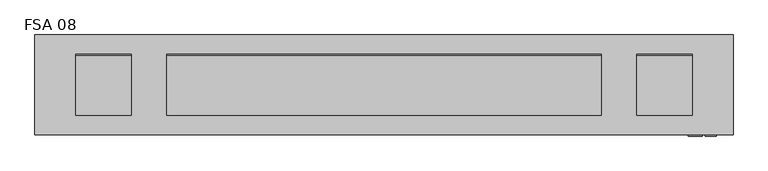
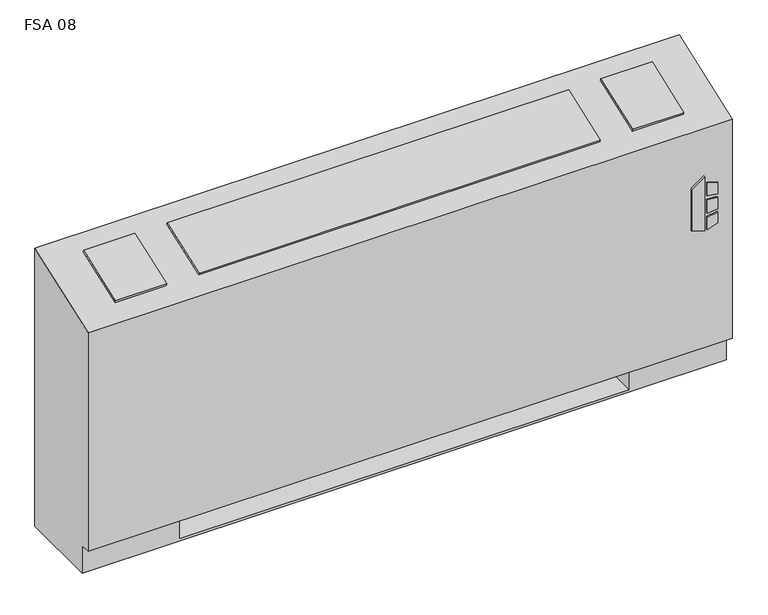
"""IFC4 building model written with IfcOpenShell, lengths in millimetres: proxy geometry, Vertical_Fan_Coil_Unit_-_FSA_-_IEC_-_2-Pipe_TS-FR_RH_2022 : FSA 08."""

from ifc_helpers import new_model, si_unit, point, frame, frame_2d, origin, place, context, project, spatial, polyline, circle_curve, trimmed, segment, composite_curve, outline, extrude, source, transform, mapped, element, save
from ifc_brep_helpers import plane_surface, revolved_surface, advanced_brep


def fsa_08_b623f187(model_context):
    return source(origin(), model_context, "Body", "SolidModel", [
        extrude(outline(polyline([(391.6086829, 849.3868862), (381.6606126, 881.5602728), (523.831537, 881.5602728), (500.8095309, 849.3868862), (391.6086829, 849.3868862)])), frame((0.0, 12.7, 0.0), z_axis=(0.0, 1.0, 0.0), x_axis=(0.0, 0.0, 1.0)), (0.0, 0.0, 1.0), 3.175),
        extrude(outline(polyline([(470.6079683, 888.3186058), (467.4055757, 914.4), (496.6344168, 914.4), (504.6988318, 888.3186058), (470.6079683, 888.3186058)])), frame((0.0, 12.7, 0.0), z_axis=(0.0, 1.0, 0.0), x_axis=(0.0, 0.0, 1.0)), (0.0, 0.0, 1.0), 3.175),
        extrude(outline(polyline([(418.7444414, 914.4), (415.0789404, 888.3186058), (381.6606126, 888.3186058), (390.2948498, 914.4), (418.7444414, 914.4)])), frame((0.0, 12.7, 0.0), z_axis=(0.0, 1.0, 0.0), x_axis=(0.0, 0.0, 1.0)), (0.0, 0.0, 1.0), 3.175),
        extrude(outline(polyline([(458.0596028, 914.4), (460.3414292, 888.3186058), (424.4038806, 888.3186058), (427.1451456, 914.4), (458.0596028, 914.4)])), frame((0.0, 12.7, 0.0), z_axis=(0.0, 1.0, 0.0), x_axis=(0.0, 0.0, 1.0)), (0.0, 0.0, 1.0), 3.175),
        extrude(outline(polyline([(-527.05, 81.534), (-527.05, 223.266), (-406.4, 223.266), (-406.4, 81.534), (-527.05, 81.534)])), frame((0.0, 0.0, 327.025), z_axis=(0.0, 0.0, 1.0), x_axis=(1.0, 0.0, 0.0)), (0.0, 0.0, 1.0), 260.35),
        extrude(outline(composite_curve([segment(trimmed(circle_curve(frame_2d((774.7, 130.175)), 9.525), [point((765.175, 130.175))], [point((784.225, 130.175))], False, "CARTESIAN"), True, "CONTINUOUS"), segment(trimmed(circle_curve(frame_2d((774.7, 130.175)), 9.525), [point((784.225, 130.175))], [point((765.175, 130.175))], False, "CARTESIAN"), True, "CONTINUOUS")], self_intersect=False)), frame((0.0, 0.0, 101.6), z_axis=(0.0, 0.0, 1.0), x_axis=(1.0, 0.0, 0.0)), (0.0, 0.0, 1.0), 25.4),
        extrude(outline(polyline([(876.3, 196.85), (876.3, 63.5), (711.2, 63.5), (711.2, 196.85), (876.3, 196.85)])), frame((0.0, 0.0, 127.0), z_axis=(0.0, 0.0, 1.0), x_axis=(1.0, 0.0, 0.0)), (0.0, 0.0, 1.0), 50.8),
        extrude(outline(polyline([(0.0, -146.0500001), (0.0, 0.0), (127.0, 0.0), (127.0, -146.0500001), (0.0, -146.0500001)])), frame((-553.593, 200.4217127, 714.3418685), z_axis=(0.0, -0.3396444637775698, 0.9405538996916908), x_axis=(1.0, 0.0, 0.0)), (0.0, 0.0, 1.0), 6.35),
        extrude(outline(polyline([(0.0, -146.0500001), (0.0, 0.0), (996.95, 0.0), (996.95, -146.0500001), (0.0, -146.0500001)])), frame((650.875, 63.0538156, 664.7367945), z_axis=(0.0, -0.33964446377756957, 0.9405538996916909), x_axis=(-1.0, 0.0, 0.0)), (0.0, 0.0, 1.0), 6.35),
        extrude(outline(polyline([(0.0, -146.0500001), (0.0, 0.0), (127.0, 0.0), (127.0, -146.0500001), (0.0, -146.0500001)])), frame((858.393, 63.0538156, 664.7367945), z_axis=(0.0, -0.3396444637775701, 0.9405538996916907), x_axis=(-1.0, 0.0, 0.0)), (0.0, 0.0, 1.0), 6.35),
        extrude(outline(composite_curve([segment(trimmed(circle_curve(frame_2d((109.347, 456.819)), 7.9375), [point((109.347, 464.7565))], [point((109.347, 448.8815))], False, "CARTESIAN"), True, "CONTINUOUS"), segment(trimmed(circle_curve(frame_2d((109.347, 456.819)), 7.9375), [point((109.347, 448.8815))], [point((109.347, 464.7565))], False, "CARTESIAN"), True, "CONTINUOUS")], self_intersect=False)), frame((711.2, 0.0, 0.0), z_axis=(1.0, 0.0, 0.0), x_axis=(0.0, 1.0, 0.0)), (0.0, 0.0, 1.0), 50.8),
        extrude(outline(composite_curve([segment(trimmed(circle_curve(frame_2d((157.4546, 429.4632)), 7.9375), [point((157.4546, 437.4007))], [point((157.4546, 421.5257))], False, "CARTESIAN"), True, "CONTINUOUS"), segment(trimmed(circle_curve(frame_2d((157.4546, 429.4632)), 7.9375), [point((157.4546, 421.5257))], [point((157.4546, 437.4007))], False, "CARTESIAN"), True, "CONTINUOUS")], self_intersect=False)), frame((711.2, 0.0, 0.0), z_axis=(1.0, 0.0, 0.0), x_axis=(0.0, 1.0, 0.0)), (0.0, 0.0, 1.0), 50.8),
        advanced_brep(
        [(-647.7, 244.475, 0.0), (952.5, 244.475, 0.0), (952.5, 41.275, 0.0), (-647.7, 41.275, 0.0), (-647.7, 244.475, 730.25), (952.5, 244.475, 730.25), (711.2, 244.475, 73.025), (939.8, 244.475, 73.025), (939.8, 244.475, 654.05), (711.2, 244.475, 654.05), (711.2, 244.475, 414.8650565), (739.775, 244.475, 414.8650565), (739.775, 244.475, 385.2349435), (711.2, 244.475, 385.2349435), (711.2, 244.475, 287.3375), (739.775, 244.475, 287.3375), (739.775, 244.475, 258.7625), (711.2, 244.475, 258.7625), (711.2, 244.475, 141.2875), (739.775, 244.475, 141.2875), (739.775, 244.475, 112.7125), (711.2, 244.475, 112.7125), (-406.4, 244.475, 654.05), (-635.0, 244.475, 654.05), (-635.0, 244.475, 73.025), (-406.4, 244.475, 73.025), (-406.4, 244.475, 112.7125), (-434.975, 244.475, 112.7125), (-434.975, 244.475, 141.2875), (-406.4, 244.475, 141.2875), (-406.4, 244.475, 258.7625), (-434.975, 244.475, 258.7625), (-434.975, 244.475, 287.3375), (-406.4, 244.475, 287.3375), (-406.4, 244.475, 385.2349435), (-434.975, 244.475, 385.2349435), (-434.975, 244.475, 414.8650565), (-406.4, 244.475, 414.8650565), (729.4626, 244.475, 127.0), (718.3374, 244.475, 127.0), (729.4626, 244.475, 400.05), (718.3374, 244.475, 400.05), (729.4626, 244.475, 273.05), (718.3374, 244.475, 273.05), (-413.5374, 244.475, 127.0), (-424.6626, 244.475, 127.0), (-413.5374, 244.475, 273.05), (-424.6626, 244.475, 273.05), (-413.5374, 244.475, 400.05), (-424.6626, 244.475, 400.05), (-647.7, 41.275, 73.025), (-647.7, 15.875, 73.025), (-647.7, 15.875, 647.7), (952.5, 15.875, 73.025), (952.5, 15.875, 647.7), (952.5, 41.275, 73.025), (-406.4, 41.275, 73.025), (-406.4, 225.425, 73.025), (711.2, 225.425, 73.025), (711.2, 41.275, 73.025), (711.2, 41.275, 6.35), (-406.4, 41.275, 6.35), (711.2, 41.275, 654.05), (939.8, 41.275, 654.05), (939.8, 41.275, 73.025), (711.2, 41.275, 73.025), (-406.4, 41.275, 654.05), (-406.4, 41.275, 73.025), (-635.0, 41.275, 73.025), (-635.0, 41.275, 654.05), (711.2, 225.425, 73.025), (711.2, 238.125, 112.7125), (711.2, 238.125, 141.2875), (711.2, 238.125, 258.7625), (711.2, 238.125, 287.3375), (711.2, 238.125, 385.2349435), (711.2, 238.125, 414.8650565), (-406.4, 225.425, 73.025), (-406.4, 238.125, 414.8650565), (-406.4, 238.125, 385.2349435), (-406.4, 238.125, 287.3375), (-406.4, 238.125, 258.7625), (-406.4, 238.125, 141.2875), (-406.4, 238.125, 112.7125), (-406.4, 225.425, 6.35), (711.2, 225.425, 6.35), (739.775, 238.125, 112.7125), (739.775, 238.125, 141.2875), (718.3374, 238.125, 127.0), (729.4626, 238.125, 127.0), (739.775, 238.125, 258.7625), (739.775, 238.125, 287.3375), (718.3374, 238.125, 273.05), (729.4626, 238.125, 273.05), (739.775, 238.125, 385.2349435), (739.775, 238.125, 414.8650565), (718.3374, 238.125, 400.05), (729.4626, 238.125, 400.05), (-434.975, 238.125, 141.2875), (-434.975, 238.125, 112.7125), (-424.6626, 238.125, 127.0), (-413.5374, 238.125, 127.0), (-434.975, 238.125, 287.3375), (-434.975, 238.125, 258.7625), (-424.6626, 238.125, 273.05), (-413.5374, 238.125, 273.05), (-434.975, 238.125, 414.8650565), (-434.975, 238.125, 385.2349435), (-424.6626, 238.125, 400.05), (-413.5374, 238.125, 400.05)],
        [
            (0, 1),
            (1, 2),
            (2, 3),
            (3, 0),
            (0, 4),
            (4, 5),
            (5, 1),
            (6, 7),
            (7, 8),
            (8, 9),
            (9, 10),
            (10, 11),
            (11, 12),
            (12, 13),
            (13, 14),
            (14, 15),
            (15, 16),
            (16, 17),
            (17, 18),
            (18, 19),
            (19, 20),
            (20, 21),
            (21, 6),
            (22, 23),
            (23, 24),
            (24, 25),
            (25, 26),
            (26, 27),
            (27, 28),
            (28, 29),
            (29, 30),
            (30, 31),
            (31, 32),
            (32, 33),
            (33, 34),
            (34, 35),
            (35, 36),
            (36, 37),
            (37, 22),
            (38, 39, circle_curve(frame((723.9, 244.475, 127.0), z_axis=(0.0, -1.0, 0.0), x_axis=(-1.0, 0.0, 0.0)), 5.5626)),
            (39, 38, circle_curve(frame((723.9, 244.475, 127.0), z_axis=(0.0, -1.0, 0.0), x_axis=(-1.0, 0.0, 0.0)), 5.5626)),
            (40, 41, circle_curve(frame((723.9, 244.475, 400.05), z_axis=(0.0, -1.0, 0.0), x_axis=(-1.0, 0.0, 0.0)), 5.5626)),
            (41, 40, circle_curve(frame((723.9, 244.475, 400.05), z_axis=(0.0, -1.0, 0.0), x_axis=(-1.0, 0.0, 0.0)), 5.5626)),
            (42, 43, circle_curve(frame((723.9, 244.475, 273.05), z_axis=(0.0, -1.0, 0.0), x_axis=(-1.0, 0.0, 0.0)), 5.5626)),
            (43, 42, circle_curve(frame((723.9, 244.475, 273.05), z_axis=(0.0, -1.0, 0.0), x_axis=(-1.0, 0.0, 0.0)), 5.5626)),
            (44, 45, circle_curve(frame((-419.1, 244.475, 127.0), z_axis=(0.0, -1.0, 0.0), x_axis=(-1.0, 0.0, 0.0)), 5.5626)),
            (45, 44, circle_curve(frame((-419.1, 244.475, 127.0), z_axis=(0.0, -1.0, 0.0), x_axis=(-1.0, 0.0, 0.0)), 5.5626)),
            (46, 47, circle_curve(frame((-419.1, 244.475, 273.05), z_axis=(0.0, -1.0, 0.0), x_axis=(-1.0, 0.0, 0.0)), 5.5626)),
            (47, 46, circle_curve(frame((-419.1, 244.475, 273.05), z_axis=(0.0, -1.0, 0.0), x_axis=(-1.0, 0.0, 0.0)), 5.5626)),
            (48, 49, circle_curve(frame((-419.1, 244.475, 400.05), z_axis=(0.0, -1.0, 0.0), x_axis=(-1.0, 0.0, 0.0)), 5.5626)),
            (49, 48, circle_curve(frame((-419.1, 244.475, 400.05), z_axis=(0.0, -1.0, 0.0), x_axis=(-1.0, 0.0, 0.0)), 5.5626)),
            (3, 50),
            (50, 51),
            (51, 52),
            (52, 4),
            (51, 53),
            (53, 54),
            (54, 52),
            (5, 54),
            (53, 55),
            (55, 2),
            (50, 56),
            (56, 57),
            (57, 58),
            (58, 59),
            (59, 55),
            (59, 60),
            (60, 61),
            (61, 56),
            (62, 63),
            (63, 64),
            (64, 65),
            (65, 62),
            (66, 67),
            (67, 68),
            (68, 69),
            (69, 66),
            (65, 70),
            (70, 6),
            (21, 71),
            (71, 72),
            (72, 18),
            (17, 73),
            (73, 74),
            (74, 14),
            (13, 75),
            (75, 76),
            (76, 10),
            (9, 62),
            (64, 7),
            (63, 8),
            (69, 23),
            (22, 66),
            (68, 24),
            (67, 77),
            (77, 25),
            (37, 78),
            (78, 79),
            (79, 34),
            (33, 80),
            (80, 81),
            (81, 30),
            (29, 82),
            (82, 83),
            (83, 26),
            (57, 84),
            (84, 85),
            (85, 58),
            (85, 60),
            (84, 61),
            (71, 86),
            (86, 87),
            (87, 72),
            (88, 89, circle_curve(frame((723.9, 238.125, 127.0), z_axis=(0.0, 1.0, 0.0), x_axis=(-1.0, 0.0, 0.0)), 5.5626)),
            (89, 88, circle_curve(frame((723.9, 238.125, 127.0), z_axis=(0.0, 1.0, 0.0), x_axis=(-1.0, 0.0, 0.0)), 5.5626)),
            (73, 90),
            (90, 91),
            (91, 74),
            (92, 93, circle_curve(frame((723.9, 238.125, 273.05), z_axis=(0.0, 1.0, 0.0), x_axis=(-1.0, 0.0, 0.0)), 5.5626)),
            (93, 92, circle_curve(frame((723.9, 238.125, 273.05), z_axis=(0.0, 1.0, 0.0), x_axis=(-1.0, 0.0, 0.0)), 5.5626)),
            (75, 94),
            (94, 95),
            (95, 76),
            (96, 97, circle_curve(frame((723.9, 238.125, 400.05), z_axis=(0.0, 1.0, 0.0), x_axis=(-1.0, 0.0, 0.0)), 5.5626)),
            (97, 96, circle_curve(frame((723.9, 238.125, 400.05), z_axis=(0.0, 1.0, 0.0), x_axis=(-1.0, 0.0, 0.0)), 5.5626)),
            (98, 99),
            (99, 83),
            (82, 98),
            (100, 101, circle_curve(frame((-419.1, 238.125, 127.0), z_axis=(0.0, 1.0, 0.0), x_axis=(-1.0, 0.0, 0.0)), 5.5626)),
            (101, 100, circle_curve(frame((-419.1, 238.125, 127.0), z_axis=(0.0, 1.0, 0.0), x_axis=(-1.0, 0.0, 0.0)), 5.5626)),
            (102, 103),
            (103, 81),
            (80, 102),
            (104, 105, circle_curve(frame((-419.1, 238.125, 273.05), z_axis=(0.0, 1.0, 0.0), x_axis=(-1.0, 0.0, 0.0)), 5.5626)),
            (105, 104, circle_curve(frame((-419.1, 238.125, 273.05), z_axis=(0.0, 1.0, 0.0), x_axis=(-1.0, 0.0, 0.0)), 5.5626)),
            (106, 107),
            (107, 79),
            (78, 106),
            (108, 109, circle_curve(frame((-419.1, 238.125, 400.05), z_axis=(0.0, 1.0, 0.0), x_axis=(-1.0, 0.0, 0.0)), 5.5626)),
            (109, 108, circle_curve(frame((-419.1, 238.125, 400.05), z_axis=(0.0, 1.0, 0.0), x_axis=(-1.0, 0.0, 0.0)), 5.5626)),
            (87, 19),
            (86, 20),
            (91, 15),
            (90, 16),
            (95, 11),
            (94, 12),
            (28, 98),
            (99, 27),
            (32, 102),
            (103, 31),
            (36, 106),
            (107, 35),
            (88, 39),
            (38, 89),
            (96, 41),
            (40, 97),
            (92, 43),
            (42, 93),
            (100, 45),
            (44, 101),
            (104, 47),
            (46, 105),
            (108, 49),
            (48, 109),
        ],
        [
            plane_surface(frame((-647.7, 244.475, 0.0), z_axis=(0.0, 0.0, -1.0), x_axis=(1.0, 0.0, 0.0))),
            plane_surface(frame((952.5, 244.475, 730.25), z_axis=(0.0, 1.0, 0.0), x_axis=(0.0, 0.0, -1.0))),
            plane_surface(frame((-647.7, 244.475, 730.25), z_axis=(-1.0, 0.0, 0.0), x_axis=(0.0, 0.0, -1.0))),
            plane_surface(frame((-647.7, 15.875, 730.25), z_axis=(0.0, -1.0, 0.0), x_axis=(0.0, 0.0, -1.0))),
            plane_surface(frame((952.5, 15.875, 730.25), z_axis=(1.0, 0.0, 0.0), x_axis=(0.0, 0.0, -1.0))),
            plane_surface(frame((-647.7, 15.875, 73.025), z_axis=(0.0, 0.0, -1.0), x_axis=(1.0, 0.0, 0.0))),
            plane_surface(frame((-647.7, 41.275, 73.025), z_axis=(0.0, -1.0, 0.0), x_axis=(1.0, 0.0, 0.0))),
            plane_surface(frame((711.2, 41.275, 654.05), z_axis=(0.0, 1.0, 0.0), x_axis=(0.0, 0.0, -1.0))),
            plane_surface(frame((711.2, 41.275, 654.05), z_axis=(1.0, 0.0, 0.0), x_axis=(0.0, 1.0, 0.0))),
            plane_surface(frame((711.2, 41.275, 73.025), z_axis=(0.0, 0.0, 1.0), x_axis=(0.0, 1.0, 0.0))),
            plane_surface(frame((939.8, 41.275, 73.025), z_axis=(-1.0, 0.0, 0.0), x_axis=(0.0, 1.0, 0.0))),
            plane_surface(frame((939.8, 41.275, 654.05), z_axis=(0.0, 0.0, -1.0), x_axis=(0.0, 1.0, 0.0))),
            plane_surface(frame((-406.4, 41.275, 654.05), z_axis=(0.0, 0.0, -1.0), x_axis=(0.0, 1.0, 0.0))),
            plane_surface(frame((-635.0, 41.275, 654.05), z_axis=(1.0, 0.0, 0.0), x_axis=(0.0, 1.0, 0.0))),
            plane_surface(frame((-635.0, 41.275, 73.025), z_axis=(0.0, 0.0, 1.0), x_axis=(0.0, 1.0, 0.0))),
            plane_surface(frame((-406.4, 41.275, 73.025), z_axis=(-1.0, 0.0, 0.0), x_axis=(0.0, 1.0, 0.0))),
            plane_surface(frame((711.2, 225.425, 73.025), z_axis=(0.0, -1.0, 0.0), x_axis=(0.0, 0.0, -1.0))),
            plane_surface(frame((711.2, 225.425, 73.025), z_axis=(-1.0, 0.0, 0.0), x_axis=(0.0, -1.0, 0.0))),
            plane_surface(frame((711.2, 225.425, 6.35), z_axis=(0.0, 0.0, 1.0), x_axis=(0.0, -1.0, 0.0))),
            plane_surface(frame((-406.4, 225.425, 6.35), z_axis=(1.0, 0.0, 0.0), x_axis=(0.0, -1.0, 0.0))),
            plane_surface(frame((739.775, 238.125, 141.2875), z_axis=(0.0, -1.0, 0.0), x_axis=(-1.0, 0.0, 0.0))),
            plane_surface(frame((711.2, 244.475, 141.2875), z_axis=(0.0, 0.0, 1.0), x_axis=(0.0, -1.0, 0.0))),
            plane_surface(frame((739.775, 244.475, 141.2875), z_axis=(1.0, 0.0, 0.0), x_axis=(0.0, -1.0, 0.0))),
            plane_surface(frame((739.775, 244.475, 112.7125), z_axis=(0.0, 0.0, -1.0), x_axis=(0.0, -1.0, 0.0))),
            plane_surface(frame((711.2, 244.475, 287.3375), z_axis=(0.0, 0.0, 1.0), x_axis=(0.0, -1.0, 0.0))),
            plane_surface(frame((739.775, 244.475, 287.3375), z_axis=(1.0, 0.0, 0.0), x_axis=(0.0, -1.0, 0.0))),
            plane_surface(frame((739.775, 244.475, 258.7625), z_axis=(0.0, 0.0, -1.0), x_axis=(0.0, -1.0, 0.0))),
            plane_surface(frame((711.2, 244.475, 414.8650565), z_axis=(0.0, 0.0, 1.0), x_axis=(0.0, -1.0, 0.0))),
            plane_surface(frame((739.775, 244.475, 414.8650565), z_axis=(1.0, 0.0, 0.0), x_axis=(0.0, -1.0, 0.0))),
            plane_surface(frame((739.775, 244.475, 385.2349435), z_axis=(0.0, 0.0, -1.0), x_axis=(0.0, -1.0, 0.0))),
            plane_surface(frame((-434.975, 244.475, 141.2875), z_axis=(0.0, 0.0, 1.0), x_axis=(0.0, -1.0, 0.0))),
            plane_surface(frame((-406.4, 244.475, 112.7125), z_axis=(0.0, 0.0, -1.0), x_axis=(0.0, -1.0, 0.0))),
            plane_surface(frame((-434.975, 244.475, 112.7125), z_axis=(-1.0, 0.0, 0.0), x_axis=(0.0, -1.0, 0.0))),
            plane_surface(frame((-434.975, 244.475, 287.3375), z_axis=(0.0, 0.0, 1.0), x_axis=(0.0, -1.0, 0.0))),
            plane_surface(frame((-406.4, 244.475, 258.7625), z_axis=(0.0, 0.0, -1.0), x_axis=(0.0, -1.0, 0.0))),
            plane_surface(frame((-434.975, 244.475, 258.7625), z_axis=(-1.0, 0.0, 0.0), x_axis=(0.0, -1.0, 0.0))),
            plane_surface(frame((-434.975, 244.475, 414.8650565), z_axis=(0.0, 0.0, 1.0), x_axis=(0.0, -1.0, 0.0))),
            plane_surface(frame((-406.4, 244.475, 385.2349435), z_axis=(0.0, 0.0, -1.0), x_axis=(0.0, -1.0, 0.0))),
            plane_surface(frame((-434.975, 244.475, 385.2349435), z_axis=(-1.0, 0.0, 0.0), x_axis=(0.0, -1.0, 0.0))),
            revolved_surface(polyline([(718.3374, 238.125, 127.0), (718.3374, 244.475, 127.0)]), (723.9, 244.475, 127.0), (0.0, -1.0, 0.0)),
            revolved_surface(polyline([(718.3374, 238.125, 400.05), (718.3374, 244.475, 400.05)]), (723.9, 244.475, 400.05), (0.0, -1.0, 0.0)),
            revolved_surface(polyline([(718.3374, 238.125, 273.05), (718.3374, 244.475, 273.05)]), (723.9, 244.475, 273.05), (0.0, -1.0, 0.0)),
            revolved_surface(polyline([(-424.6626, 238.125, 127.0), (-424.6626, 244.475, 127.0)]), (-419.1, 244.475, 127.0), (0.0, -1.0, 0.0)),
            revolved_surface(polyline([(-424.6626, 238.125, 273.05), (-424.6626, 244.475, 273.05)]), (-419.1, 244.475, 273.05), (0.0, -1.0, 0.0)),
            revolved_surface(polyline([(-424.6626, 238.125, 400.05), (-424.6626, 244.475, 400.05)]), (-419.1, 244.475, 400.05), (0.0, -1.0, 0.0)),
            plane_surface(frame((-647.7, 244.475, 730.25), z_axis=(0.0, -0.33964446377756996, 0.9405538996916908), x_axis=(1.0, 0.0, 0.0))),
        ],
        [
            (0, [[1, 2, 3, 4]]),
            (1, [[-1, 5, 6, 7], [8, 9, 10, 11, 12, 13, 14, 15, 16, 17, 18, 19, 20, 21, 22, 23], [24, 25, 26, 27, 28, 29, 30, 31, 32, 33, 34, 35, 36, 37, 38, 39], [40, 41], [42, 43], [44, 45], [46, 47], [48, 49], [50, 51]]),
            (2, [[-5, -4, 52, 53, 54, 55]]),
            (3, [[56, 57, 58, -54]]),
            (4, [[-7, 59, -57, 60, 61, -2]]),
            (5, [[-53, 62, 63, 64, 65, 66, -60, -56]]),
            (6, [[-3, -61, -66, 67, 68, 69, -62, -52]]),
            (7, [[70, 71, 72, 73]]),
            (7, [[74, 75, 76, 77]]),
            (8, [[-73, 78, 79, -23, 80, 81, 82, -19, 83, 84, 85, -15, 86, 87, 88, -11, 89]]),
            (9, [[-72, 90, -8, -79, -78]]),
            (10, [[-71, 91, -9, -90]]),
            (11, [[-70, -89, -10, -91]]),
            (12, [[-77, 92, -24, 93]]),
            (13, [[-76, 94, -25, -92]]),
            (14, [[-75, 95, 96, -26, -94]]),
            (15, [[-74, -93, -39, 97, 98, 99, -35, 100, 101, 102, -31, 103, 104, 105, -27, -96, -95]]),
            (16, [[-64, 106, 107, 108]]),
            (17, [[-108, 109, -67, -65]]),
            (18, [[-107, 110, -68, -109]]),
            (19, [[-106, -63, -69, -110]]),
            (20, [[111, 112, 113, -81], [114, 115]]),
            (20, [[116, 117, 118, -84], [119, 120]]),
            (20, [[121, 122, 123, -87], [124, 125]]),
            (20, [[126, 127, -104, 128], [129, 130]]),
            (20, [[131, 132, -101, 133], [134, 135]]),
            (20, [[136, 137, -98, 138], [139, 140]]),
            (21, [[-113, 141, -20, -82]]),
            (22, [[-112, 142, -21, -141]]),
            (23, [[-111, -80, -22, -142]]),
            (24, [[-118, 143, -16, -85]]),
            (25, [[-117, 144, -17, -143]]),
            (26, [[-116, -83, -18, -144]]),
            (27, [[-123, 145, -12, -88]]),
            (28, [[-122, 146, -13, -145]]),
            (29, [[-121, -86, -14, -146]]),
            (30, [[-128, -103, -30, 147]]),
            (31, [[-127, 148, -28, -105]]),
            (32, [[-126, -147, -29, -148]]),
            (33, [[-133, -100, -34, 149]]),
            (34, [[-132, 150, -32, -102]]),
            (35, [[-131, -149, -33, -150]]),
            (36, [[-138, -97, -38, 151]]),
            (37, [[-137, 152, -36, -99]]),
            (38, [[-136, -151, -37, -152]]),
            (39, [[153, -40, 154, -114]]),
            (39, [[-153, -115, -154, -41]]),
            (40, [[155, -42, 156, -124]]),
            (40, [[-155, -125, -156, -43]]),
            (41, [[157, -44, 158, -119]]),
            (41, [[-157, -120, -158, -45]]),
            (42, [[159, -46, 160, -129]]),
            (42, [[-159, -130, -160, -47]]),
            (43, [[161, -48, 162, -134]]),
            (43, [[-161, -135, -162, -49]]),
            (44, [[163, -50, 164, -139]]),
            (44, [[-163, -140, -164, -51]]),
            (45, [[-6, -55, -58, -59]]),
        ],
    ),
    ])


if __name__ == "__main__":
    model = new_model("IFC4")
    model_context = context("Model", 3, world=origin())
    ifc_project = project(units=[si_unit("LENGTHUNIT", "METRE", prefix="MILLI")], contexts=[model_context])
    site = spatial("IfcSite", under=ifc_project)
    building = spatial("IfcBuilding", under=site)
    placement = place(None, origin())
    fsa_08_shape = fsa_08_b623f187(model_context)
    element("IfcBuildingElementProxy", 1, Name="Vertical_Fan_Coil_Unit_-_FSA_-_IEC_-_2-Pipe_TS-FR_RH_2022 : FSA 08", ObjectType="Vertical_Fan_Coil_Unit_-_FSA_-_IEC_-_2-Pipe_TS-FR_RH_2022 : FSA 08", at=placement, inside=building, context=model_context, shape_type="MappedRepresentation", body=[
        mapped(fsa_08_shape, transform((0.0, 0.0, 0.0), x_axis=(1.0, 0.0, 0.0), y_axis=(0.0, 1.0, 0.0), z_axis=(0.0, 0.0, 1.0))),
    ])
    save(model, "model.ifc")
